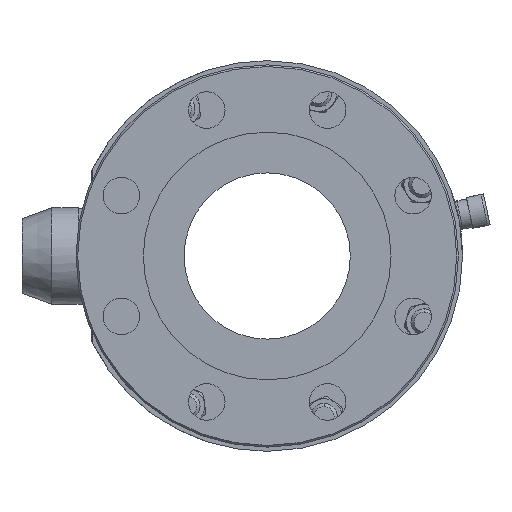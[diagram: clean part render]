
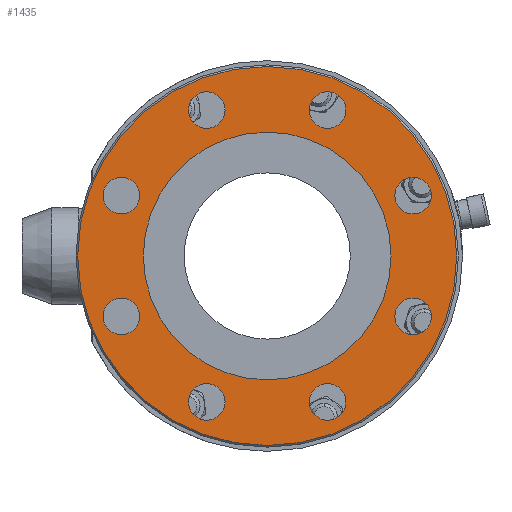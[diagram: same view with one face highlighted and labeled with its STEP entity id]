
A CAD part, left-side view. The second image highlights one B-rep face of the part: STEP entity #1435.
In plain terms, the highlighted planar face has unit normal (-1, 0, 0).
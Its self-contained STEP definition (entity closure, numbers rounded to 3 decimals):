
#1435=ADVANCED_FACE('',(#7253,#7255,#7257,#7259,#7261,#7263,#7265,#7267,#7269,#7271),
#7273,.F.);
#7253=FACE_BOUND('',#7254,.T.);
#7254=EDGE_LOOP('',(#14731,#14732));
#7255=FACE_BOUND('',#7256,.T.);
#7256=EDGE_LOOP('',(#14733,#14734));
#7257=FACE_BOUND('',#7258,.T.);
#7258=EDGE_LOOP('',(#14735,#14736));
#7259=FACE_BOUND('',#7260,.T.);
#7260=EDGE_LOOP('',(#14737,#14738));
#7261=FACE_BOUND('',#7262,.T.);
#7262=EDGE_LOOP('',(#14739,#14740));
#7263=FACE_BOUND('',#7264,.T.);
#7264=EDGE_LOOP('',(#14741,#14742));
#7265=FACE_BOUND('',#7266,.T.);
#7266=EDGE_LOOP('',(#14743,#14744));
#7267=FACE_BOUND('',#7268,.T.);
#7268=EDGE_LOOP('',(#14745,#14746));
#7269=FACE_BOUND('',#7270,.T.);
#7270=EDGE_LOOP('',(#14747,#14748));
#7271=FACE_OUTER_BOUND('',#7272,.T.);
#7272=EDGE_LOOP('',(#14749,#14750));
#7273=PLANE('',#7274);
#7274=AXIS2_PLACEMENT_3D('',#7275,#7276,#7277);
#7275=CARTESIAN_POINT('',(-149.5,74.5,0.));
#7276=DIRECTION('',(1.,0.,0.));
#7277=DIRECTION('',(0.,0.,-1.));
#14731=ORIENTED_EDGE('',*,*,#19091,.F.);
#14732=ORIENTED_EDGE('',*,*,#19041,.F.);
#14733=ORIENTED_EDGE('',*,*,#19092,.F.);
#14734=ORIENTED_EDGE('',*,*,#19037,.F.);
#14735=ORIENTED_EDGE('',*,*,#19093,.F.);
#14736=ORIENTED_EDGE('',*,*,#19033,.F.);
#14737=ORIENTED_EDGE('',*,*,#19094,.F.);
#14738=ORIENTED_EDGE('',*,*,#19029,.F.);
#14739=ORIENTED_EDGE('',*,*,#19095,.F.);
#14740=ORIENTED_EDGE('',*,*,#19025,.F.);
#14741=ORIENTED_EDGE('',*,*,#19096,.F.);
#14742=ORIENTED_EDGE('',*,*,#19021,.F.);
#14743=ORIENTED_EDGE('',*,*,#19097,.F.);
#14744=ORIENTED_EDGE('',*,*,#19017,.F.);
#14745=ORIENTED_EDGE('',*,*,#19098,.F.);
#14746=ORIENTED_EDGE('',*,*,#19013,.F.);
#14747=ORIENTED_EDGE('',*,*,#18998,.F.);
#14748=ORIENTED_EDGE('',*,*,#19089,.F.);
#14749=ORIENTED_EDGE('',*,*,#19043,.F.);
#14750=ORIENTED_EDGE('',*,*,#19099,.F.);
#18998=EDGE_CURVE('',#23021,#23022,#23023,.T.);
#19013=EDGE_CURVE('',#23048,#23050,#23051,.T.);
#19017=EDGE_CURVE('',#23056,#23058,#23059,.T.);
#19021=EDGE_CURVE('',#23064,#23066,#23067,.T.);
#19025=EDGE_CURVE('',#23072,#23074,#23075,.T.);
#19029=EDGE_CURVE('',#23080,#23082,#23083,.T.);
#19033=EDGE_CURVE('',#23088,#23090,#23091,.T.);
#19037=EDGE_CURVE('',#23096,#23098,#23099,.T.);
#19041=EDGE_CURVE('',#23104,#23106,#23107,.T.);
#19043=EDGE_CURVE('',#23109,#23110,#23111,.T.);
#19089=EDGE_CURVE('',#23022,#23021,#23165,.T.);
#19091=EDGE_CURVE('',#23106,#23104,#23167,.T.);
#19092=EDGE_CURVE('',#23098,#23096,#23168,.T.);
#19093=EDGE_CURVE('',#23090,#23088,#23169,.T.);
#19094=EDGE_CURVE('',#23082,#23080,#23170,.T.);
#19095=EDGE_CURVE('',#23074,#23072,#23171,.T.);
#19096=EDGE_CURVE('',#23066,#23064,#23172,.T.);
#19097=EDGE_CURVE('',#23058,#23056,#23173,.T.);
#19098=EDGE_CURVE('',#23050,#23048,#23174,.T.);
#19099=EDGE_CURVE('',#23110,#23109,#23175,.T.);
#23021=VERTEX_POINT('',#40060);
#23022=VERTEX_POINT('',#40061);
#23023=CIRCLE('',#40062,74.5);
#23048=VERTEX_POINT('',#40123);
#23050=VERTEX_POINT('',#40127);
#23051=CIRCLE('',#40128,11.);
#23056=VERTEX_POINT('',#40141);
#23058=VERTEX_POINT('',#40145);
#23059=CIRCLE('',#40146,11.);
#23064=VERTEX_POINT('',#40159);
#23066=VERTEX_POINT('',#40163);
#23067=CIRCLE('',#40164,11.);
#23072=VERTEX_POINT('',#40177);
#23074=VERTEX_POINT('',#40181);
#23075=CIRCLE('',#40182,11.);
#23080=VERTEX_POINT('',#40195);
#23082=VERTEX_POINT('',#40199);
#23083=CIRCLE('',#40200,11.);
#23088=VERTEX_POINT('',#40213);
#23090=VERTEX_POINT('',#40217);
#23091=CIRCLE('',#40218,11.);
#23096=VERTEX_POINT('',#40231);
#23098=VERTEX_POINT('',#40235);
#23099=CIRCLE('',#40236,11.);
#23104=VERTEX_POINT('',#40249);
#23106=VERTEX_POINT('',#40253);
#23107=CIRCLE('',#40254,11.);
#23109=VERTEX_POINT('',#40261);
#23110=VERTEX_POINT('',#40262);
#23111=CIRCLE('',#40263,114.);
#23165=CIRCLE('',#40446,74.5);
#23167=CIRCLE('',#40454,11.);
#23168=CIRCLE('',#40458,11.);
#23169=CIRCLE('',#40462,11.);
#23170=CIRCLE('',#40466,11.);
#23171=CIRCLE('',#40470,11.);
#23172=CIRCLE('',#40474,11.);
#23173=CIRCLE('',#40478,11.);
#23174=CIRCLE('',#40482,11.);
#23175=CIRCLE('',#40486,114.);
#40060=CARTESIAN_POINT('',(-149.5,0.,74.5));
#40061=CARTESIAN_POINT('',(-149.5,0.,-74.5));
#40062=AXIS2_PLACEMENT_3D('',#40063,#40064,#40065);
#40063=CARTESIAN_POINT('',(-149.5,0.,0.));
#40064=DIRECTION('',(-1.,0.,0.));
#40065=DIRECTION('',(0.,0.,1.));
#40123=CARTESIAN_POINT('',(-149.5,87.769,25.355));
#40127=CARTESIAN_POINT('',(-149.5,87.769,47.355));
#40128=AXIS2_PLACEMENT_3D('',#40129,#40130,#40131);
#40129=CARTESIAN_POINT('',(-149.5,87.769,36.355));
#40130=DIRECTION('',(-1.,0.,0.));
#40131=DIRECTION('',(0.,0.,-1.));
#40141=CARTESIAN_POINT('',(-149.5,87.769,-47.355));
#40145=CARTESIAN_POINT('',(-149.5,87.769,-25.355));
#40146=AXIS2_PLACEMENT_3D('',#40147,#40148,#40149);
#40147=CARTESIAN_POINT('',(-149.5,87.769,-36.355));
#40148=DIRECTION('',(-1.,0.,0.));
#40149=DIRECTION('',(0.,0.,-1.));
#40159=CARTESIAN_POINT('',(-149.5,36.355,-98.769));
#40163=CARTESIAN_POINT('',(-149.5,36.355,-76.769));
#40164=AXIS2_PLACEMENT_3D('',#40165,#40166,#40167);
#40165=CARTESIAN_POINT('',(-149.5,36.355,-87.769));
#40166=DIRECTION('',(-1.,0.,0.));
#40167=DIRECTION('',(0.,0.,-1.));
#40177=CARTESIAN_POINT('',(-149.5,-36.355,-98.769));
#40181=CARTESIAN_POINT('',(-149.5,-36.355,-76.769));
#40182=AXIS2_PLACEMENT_3D('',#40183,#40184,#40185);
#40183=CARTESIAN_POINT('',(-149.5,-36.355,-87.769));
#40184=DIRECTION('',(-1.,0.,0.));
#40185=DIRECTION('',(0.,0.,-1.));
#40195=CARTESIAN_POINT('',(-149.5,-87.769,-47.355));
#40199=CARTESIAN_POINT('',(-149.5,-87.769,-25.355));
#40200=AXIS2_PLACEMENT_3D('',#40201,#40202,#40203);
#40201=CARTESIAN_POINT('',(-149.5,-87.769,-36.355));
#40202=DIRECTION('',(-1.,0.,0.));
#40203=DIRECTION('',(0.,0.,-1.));
#40213=CARTESIAN_POINT('',(-149.5,-87.769,25.355));
#40217=CARTESIAN_POINT('',(-149.5,-87.769,47.355));
#40218=AXIS2_PLACEMENT_3D('',#40219,#40220,#40221);
#40219=CARTESIAN_POINT('',(-149.5,-87.769,36.355));
#40220=DIRECTION('',(-1.,0.,0.));
#40221=DIRECTION('',(0.,0.,-1.));
#40231=CARTESIAN_POINT('',(-149.5,-36.355,76.769));
#40235=CARTESIAN_POINT('',(-149.5,-36.355,98.769));
#40236=AXIS2_PLACEMENT_3D('',#40237,#40238,#40239);
#40237=CARTESIAN_POINT('',(-149.5,-36.355,87.769));
#40238=DIRECTION('',(-1.,0.,0.));
#40239=DIRECTION('',(0.,0.,-1.));
#40249=CARTESIAN_POINT('',(-149.5,36.355,76.769));
#40253=CARTESIAN_POINT('',(-149.5,36.355,98.769));
#40254=AXIS2_PLACEMENT_3D('',#40255,#40256,#40257);
#40255=CARTESIAN_POINT('',(-149.5,36.355,87.769));
#40256=DIRECTION('',(-1.,0.,0.));
#40257=DIRECTION('',(0.,0.,-1.));
#40261=CARTESIAN_POINT('',(-149.5,0.,-114.));
#40262=CARTESIAN_POINT('',(-149.5,0.,114.));
#40263=AXIS2_PLACEMENT_3D('',#40264,#40265,#40266);
#40264=CARTESIAN_POINT('',(-149.5,0.,0.));
#40265=DIRECTION('',(1.,-0.,0.));
#40266=DIRECTION('',(0.,0.,-1.));
#40446=AXIS2_PLACEMENT_3D('',#40447,#40448,#40449);
#40447=CARTESIAN_POINT('',(-149.5,0.,0.));
#40448=DIRECTION('',(-1.,0.,0.));
#40449=DIRECTION('',(0.,0.,-1.));
#40454=AXIS2_PLACEMENT_3D('',#40455,#40456,#40457);
#40455=CARTESIAN_POINT('',(-149.5,36.355,87.769));
#40456=DIRECTION('',(-1.,0.,0.));
#40457=DIRECTION('',(0.,0.,1.));
#40458=AXIS2_PLACEMENT_3D('',#40459,#40460,#40461);
#40459=CARTESIAN_POINT('',(-149.5,-36.355,87.769));
#40460=DIRECTION('',(-1.,0.,0.));
#40461=DIRECTION('',(0.,0.,1.));
#40462=AXIS2_PLACEMENT_3D('',#40463,#40464,#40465);
#40463=CARTESIAN_POINT('',(-149.5,-87.769,36.355));
#40464=DIRECTION('',(-1.,0.,0.));
#40465=DIRECTION('',(0.,0.,1.));
#40466=AXIS2_PLACEMENT_3D('',#40467,#40468,#40469);
#40467=CARTESIAN_POINT('',(-149.5,-87.769,-36.355));
#40468=DIRECTION('',(-1.,0.,0.));
#40469=DIRECTION('',(0.,0.,1.));
#40470=AXIS2_PLACEMENT_3D('',#40471,#40472,#40473);
#40471=CARTESIAN_POINT('',(-149.5,-36.355,-87.769));
#40472=DIRECTION('',(-1.,0.,0.));
#40473=DIRECTION('',(0.,0.,1.));
#40474=AXIS2_PLACEMENT_3D('',#40475,#40476,#40477);
#40475=CARTESIAN_POINT('',(-149.5,36.355,-87.769));
#40476=DIRECTION('',(-1.,0.,0.));
#40477=DIRECTION('',(0.,0.,1.));
#40478=AXIS2_PLACEMENT_3D('',#40479,#40480,#40481);
#40479=CARTESIAN_POINT('',(-149.5,87.769,-36.355));
#40480=DIRECTION('',(-1.,0.,0.));
#40481=DIRECTION('',(0.,0.,1.));
#40482=AXIS2_PLACEMENT_3D('',#40483,#40484,#40485);
#40483=CARTESIAN_POINT('',(-149.5,87.769,36.355));
#40484=DIRECTION('',(-1.,0.,0.));
#40485=DIRECTION('',(0.,0.,1.));
#40486=AXIS2_PLACEMENT_3D('',#40487,#40488,#40489);
#40487=CARTESIAN_POINT('',(-149.5,0.,0.));
#40488=DIRECTION('',(1.,-0.,0.));
#40489=DIRECTION('',(0.,0.,1.));
